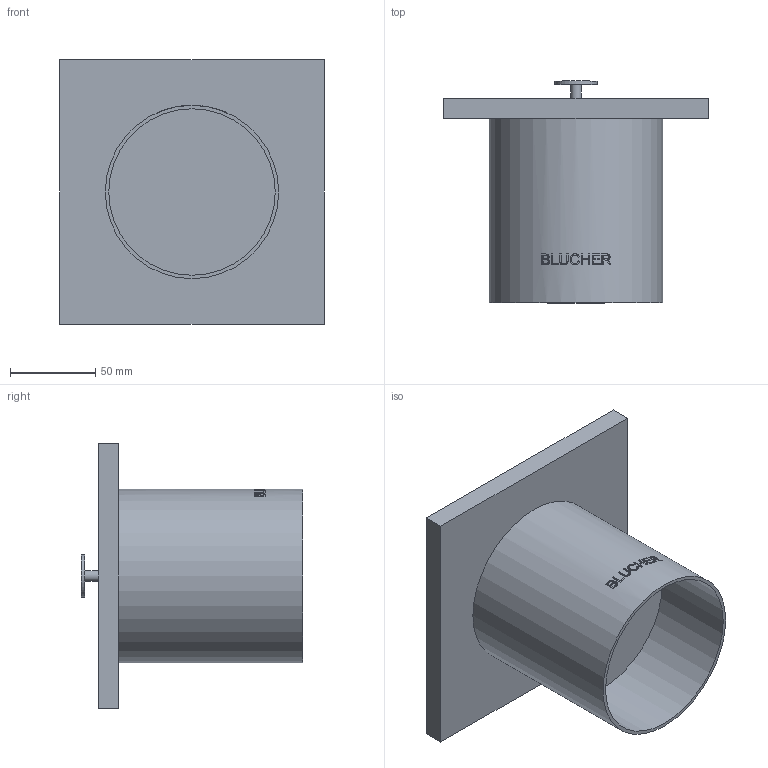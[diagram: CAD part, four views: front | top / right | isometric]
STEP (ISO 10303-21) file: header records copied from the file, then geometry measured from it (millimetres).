
FILE_DESCRIPTION((''),'2;1');
FILE_NAME('C:\Drawings\3D_CAD_Models\Blucher\BCO_Clean Outs_Complete_091119\BCO-100\WebsiteFiles\3D\STEP\BCO-114.stp','2009-11-23T14:06:11',('hofmansp'),(''),'Autodesk Inventor 2010','Autodesk Inventor 2010','');
FILE_SCHEMA(('AUTOMOTIVE_DESIGN { 1 0 10303 214 1 1 1 1 }'));
Length unit declared in the file: inch
Products named in the file (1): BCO-114
Bounding box: 154.94 x 130.05 x 154.94 mm (x, y, z)
Volume: 783414.2 mm3; surface area: 106721.6 mm2
Topology: 1 solids, 1 shells, 112 faces, 288 edges, 192 vertices
Faces by surface type: plane 64, bspline 34, cylinder 14
Full cylindrical faces by diameter (mm): 6.096 x1, 24.892 x1, 97.536 x1, 101.6 x1
Entity records: 13879 total; most frequent: CARTESIAN_POINT 11413, ORIENTED_EDGE 568, DIRECTION 372, EDGE_CURVE 284, VERTEX_POINT 192, EDGE_LOOP 130, VECTOR 128, LINE 128
